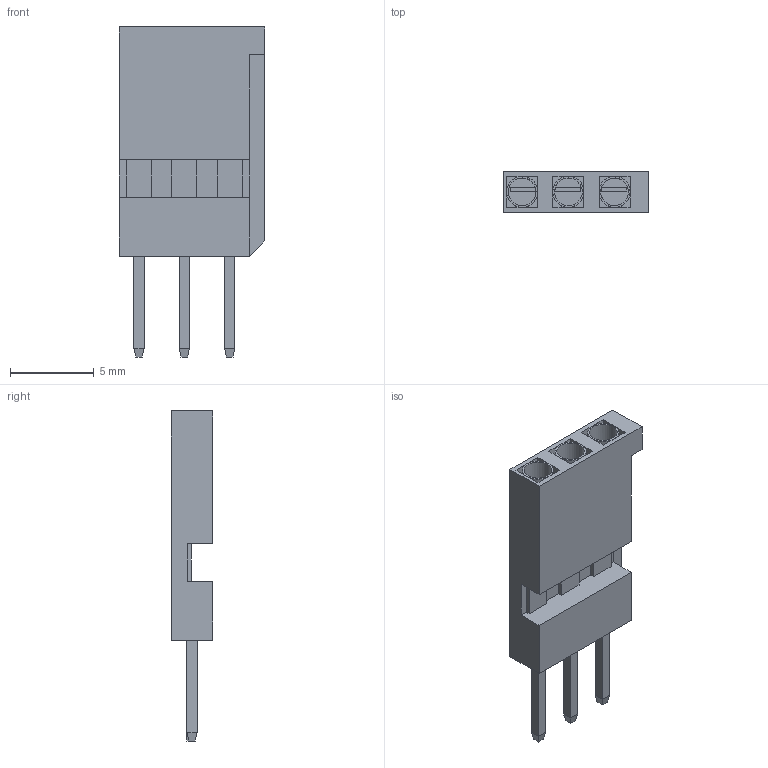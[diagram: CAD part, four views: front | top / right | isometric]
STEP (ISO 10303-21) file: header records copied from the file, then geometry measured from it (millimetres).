
FILE_DESCRIPTION((''),'2;1');
FILE_NAME('C:\Data Folder\IFI Project\Datasets\Unit 18\Connector01.stp','2008-05-09T10:12:14',('Phillip Dollan'),(''),'Autodesk Inventor 2009','Autodesk Inventor 2009','');
FILE_SCHEMA(('AUTOMOTIVE_DESIGN { 1 0 10303 214 1 1 1 1 }'));
Length unit declared in the file: inch
Products named in the file (1): Connector01
Bounding box: 8.67 x 2.45 x 19.65 mm (x, y, z)
Volume: 195.7 mm3; surface area: 781.4 mm2
Topology: 1 solids, 1 shells, 152 faces, 351 edges, 177 vertices
Faces by surface type: plane 137, cylinder 15
Full cylindrical faces by diameter (mm): 1.65 x3
Entity records: 4161 total; most frequent: ORIENTED_EDGE 692, DIRECTION 684, CARTESIAN_POINT 674, EDGE_CURVE 346, VECTOR 314, LINE 314, AXIS2_PLACEMENT_3D 185, VERTEX_POINT 175
